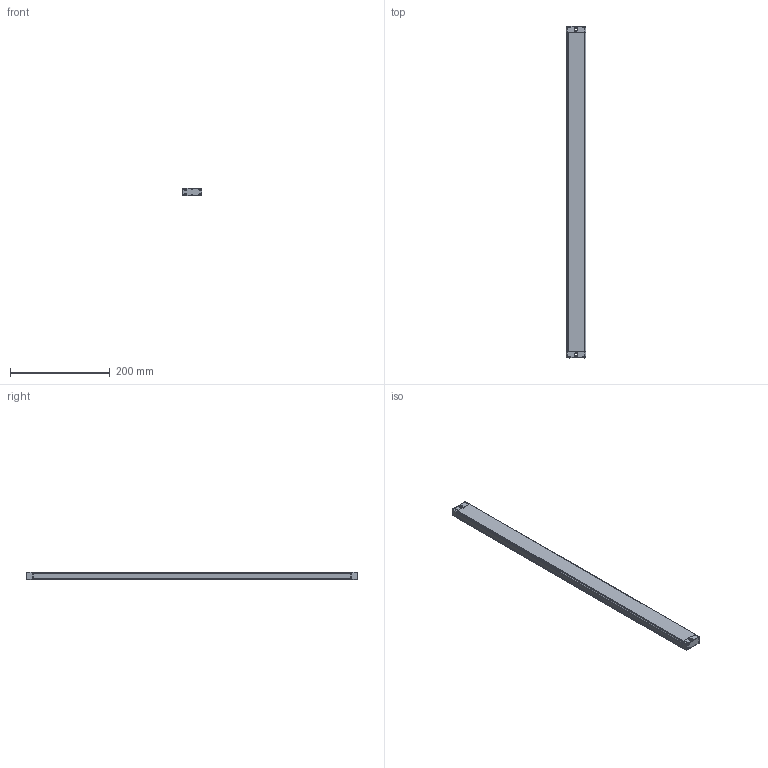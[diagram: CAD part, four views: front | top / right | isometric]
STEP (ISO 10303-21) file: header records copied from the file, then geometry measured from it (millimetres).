
FILE_DESCRIPTION((''),'2;1');
FILE_NAME('EB15--3610_ASM','2021-07-22T10:13:08',('18720616900'),(''),'CREO PARAMETRIC BY PTC INC, 2019010','CREO PARAMETRIC BY PTC INC, 2019010','');
FILE_SCHEMA(('CONFIG_CONTROL_DESIGN'));
Length unit declared in the file: millimetre
Products named in the file (6): EB15-00; EB15-000; EB15-0003; EB15-0004; ST-3-12; EB15--3610_ASM
Assembly tree (12 placements, depth 2):
  EB15--3610_ASM
    EB15-00
    EB15-000
    EB15-0003
    EB15-0004
    ST-3-12  x8
Bounding box: 39.15 x 665 x 15.8 mm (x, y, z)
Volume: 399413.3 mm3; surface area: 98873.7 mm2
Topology: 12 solids, 12 shells, 827 faces, 2188 edges, 1368 vertices
Faces by surface type: plane 242, bspline 188, cone 176, cylinder 165, torus 40, sphere 16
Entity records: 16044 total; most frequent: CARTESIAN_POINT 7660, ORIENTED_EDGE 1804, DIRECTION 1603, EDGE_CURVE 902, AXIS2_PLACEMENT_3D 577, VERTEX_POINT 563, VECTOR 449, LINE 449
